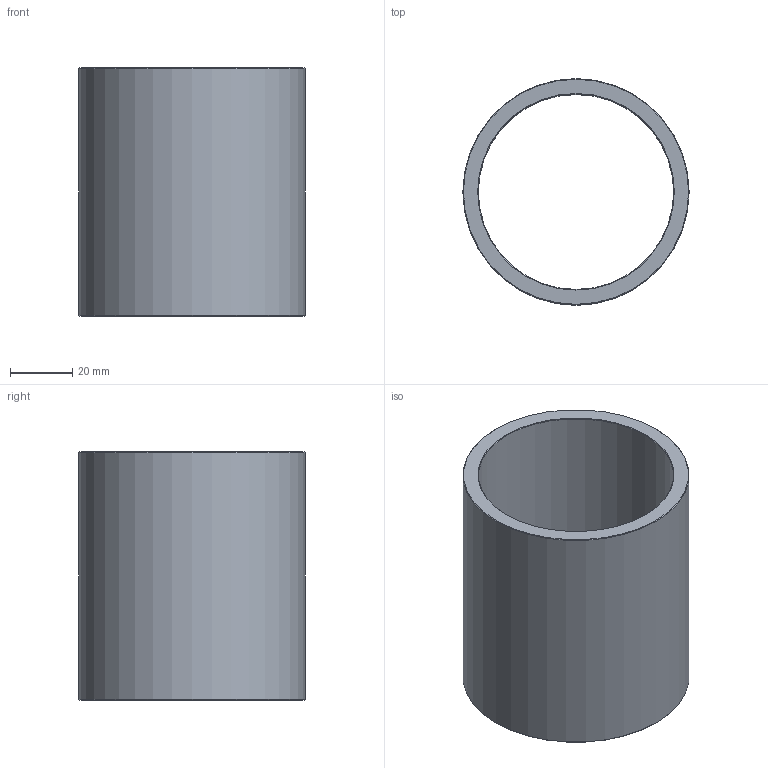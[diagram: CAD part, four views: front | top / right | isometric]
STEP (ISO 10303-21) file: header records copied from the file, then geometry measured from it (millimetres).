
FILE_DESCRIPTION(('STEP AP203'),'1');
FILE_NAME('C:/Users/Rodrigo/Desktop/GA5.063.080-1.step','2016-11-08T13:56:59',(' '),(' '),'Spatial InterOp 3D',' ',' ');
FILE_SCHEMA(('CONFIG_CONTROL_DESIGN'));
Length unit declared in the file: millimetre
Products named in the file (1): 1
Bounding box: 73 x 73 x 80 mm (x, y, z)
Volume: 85434.2 mm3; surface area: 36216.7 mm2
Topology: 1 solids, 1 shells, 8 faces, 14 edges, 8 vertices
Faces by surface type: cone 4, cylinder 2, plane 2
Full cylindrical faces by diameter (mm): 63 x1, 73 x1
Entity records: 212 total; most frequent: DIRECTION 34, CARTESIAN_POINT 25, AXIS2_PLACEMENT_3D 17, EDGE_LOOP 16, ORIENTED_EDGE 16, FACE_OUTER_BOUND 10, ADVANCED_FACE 8, EDGE_CURVE 8
